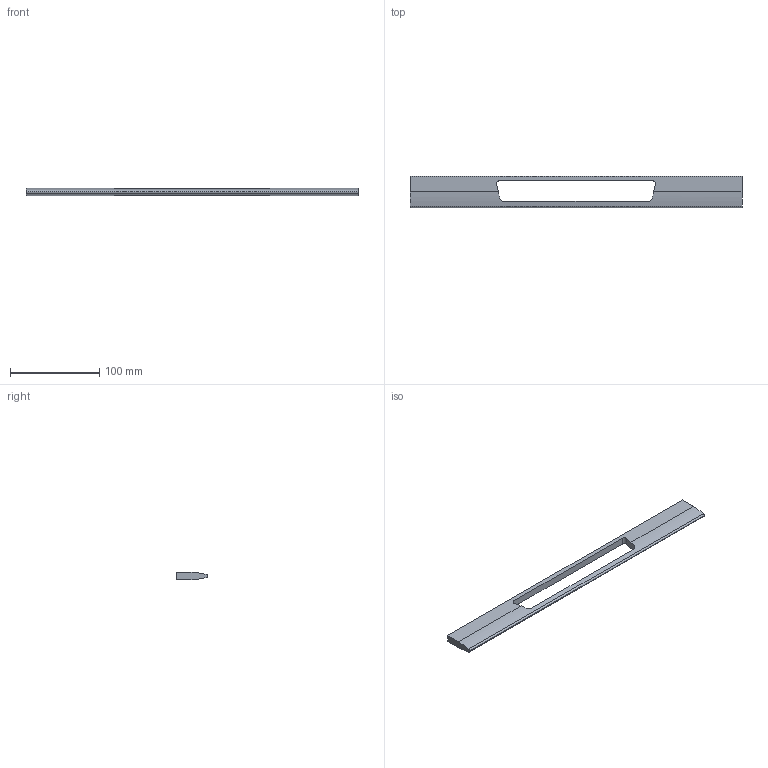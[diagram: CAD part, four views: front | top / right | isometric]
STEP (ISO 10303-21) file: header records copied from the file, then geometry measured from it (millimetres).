
FILE_DESCRIPTION( ( '' ), '1' );
FILE_NAME( 'D:/1.AUTOCAD EXPORT/Group 10/sheet_10_1/9105839.stp', '2013-10-18T05:23:00', ( '' ), ( '' ), ' ', ' ', ' ' );
FILE_SCHEMA( ( 'automotive_design' ) );
Length unit declared in the file: millimetre
Products named in the file (1): 1
Bounding box: 373 x 35 x 8 mm (x, y, z)
Volume: 61046.8 mm3; surface area: 25448.5 mm2
Topology: 1 solids, 1 shells, 23 faces, 63 edges, 42 vertices
Faces by surface type: cylinder 12, plane 11
Entity records: 1530 total; most frequent: CARTESIAN_POINT 189, DIRECTION 131, STYLED_ITEM 129, PRESENTATION_STYLE_ASSIGNMENT 129, COLOUR_RGB 129, ORIENTED_EDGE 126, EDGE_CURVE 63, CURVE_STYLE 63
